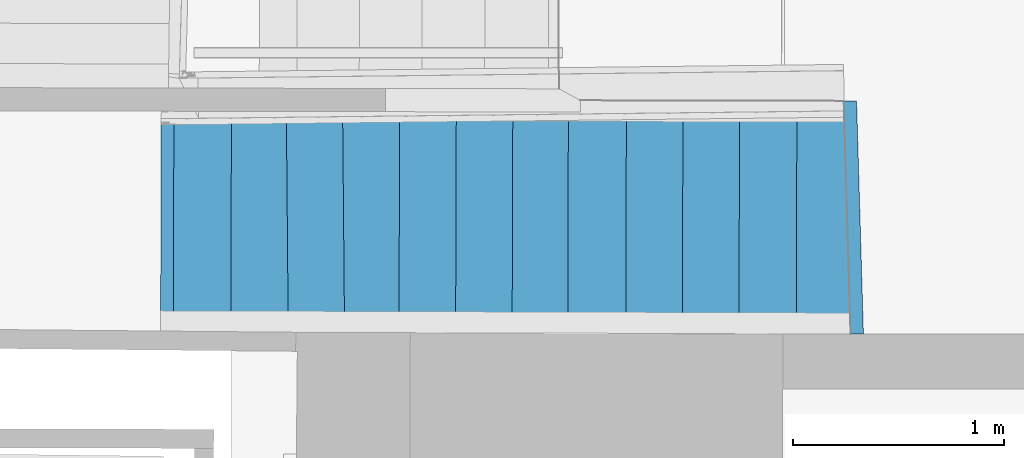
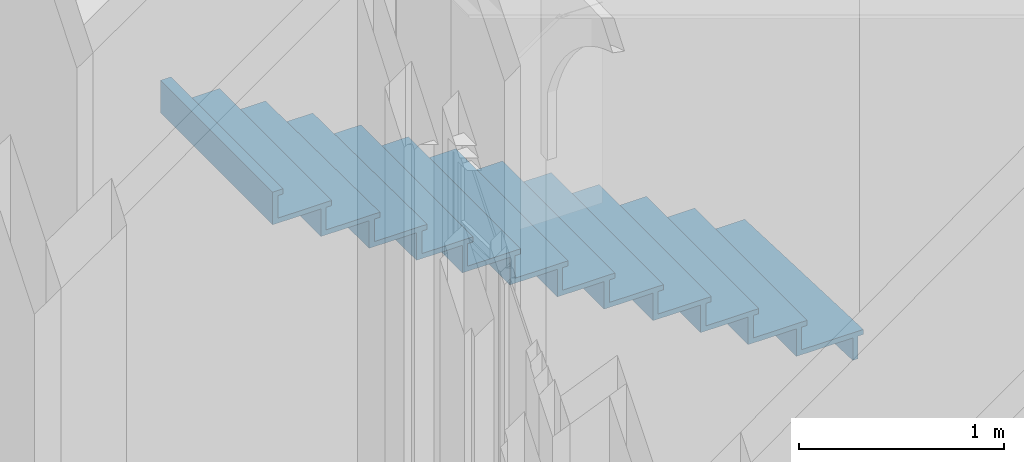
# One storey, part 73 of 97: 1 stair flight, 1 element without a shape of its own.
"""IFC2X3 building model written with IfcOpenShell, lengths in centimetres."""

from ifc_helpers import new_model, entity, si_unit, converted_unit, direction, frame, origin, origin_with_axes, place, context, subcontext, project, spatial, faceted_brep, material, material_list, element, aggregate, save


model = new_model("IFC2X3")

# Units and contexts
model_context = context("Model", 3, precision=0.0001, world=origin(), true_north=direction((0.225632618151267, 0.974212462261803, 0.0)))
body_context = subcontext(model_context, "Body", "Model", "MODEL_VIEW")
ifc_project = project(units=[si_unit("LENGTHUNIT", "METRE", prefix="CENTI"), si_unit("AREAUNIT", "SQUARE_METRE", prefix="CENTI"), si_unit("VOLUMEUNIT", "CUBIC_METRE", prefix="CENTI"), converted_unit("PLANEANGLEUNIT", "DEGREE", entity("IfcRatioMeasure", 0.0174532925), si_unit("PLANEANGLEUNIT", "RADIAN"), dimensions=[0, 0, 0, 0, 0, 0, 0])], contexts=[model_context])

# Site, building, storey
site_placement = place(None, origin_with_axes())
site = spatial("IfcSite", under=ifc_project, at=site_placement, Name="Default Site", CompositionType="ELEMENT")
building_placement = place(site_placement, origin_with_axes())
building = spatial("IfcBuilding", under=site, at=building_placement, Name="Default Building", CompositionType="ELEMENT")
storey_placement = place(building_placement, origin_with_axes())
storey = spatial("IfcBuildingStorey", under=building, at=storey_placement, Name="Rez-de-chaussée", CompositionType="ELEMENT", Elevation=0.0)

# Stair, stair flight
stair_placement = place(storey_placement, frame((-869.486892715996, -231.842367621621, 0.0), z_axis=(0.0, 0.0, 1.0), x_axis=(1.0, 0.0, 0.0)))
stair = element("IfcStair", 1, at=stair_placement, inside=storey, Name="Escalier 12888", ShapeType="NOTDEFINED")
ifc_material_1 = material(Name="Noyer 01")
ifc_material_2 = material(Name="Épicéa")
ifc_material_list = material_list([ifc_material_1, ifc_material_2])
stair_flight_placement = place(stair_placement, frame((1.62228395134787, -55.1634621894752, 13.4757027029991), z_axis=(0.0, 0.0, 1.0), x_axis=(-0.999567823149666, -0.029396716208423, 0.0)))
stair_flight = element("IfcStairFlight", 2, at=stair_flight_placement, material=ifc_material_list, Name="4294967271", context=body_context, shape_type="Brep", body=[
    faceted_brep([(-3.00003006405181, 0.0, -13.4757027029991), (0.0, 0.0, -13.4757027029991), (-6.06921522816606e-05, -110.374621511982, -13.4757027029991), (-3.00009040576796, -110.374609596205, -13.4757027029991), (0.0, 0.0, 0.0), (-3.00003006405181, 0.0, 0.0), (-3.00009040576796, -110.374609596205, 0.0), (-6.06921522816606e-05, -110.374621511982, 0.0), (-3.00009058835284, -110.374609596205, -13.4757027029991), (-3.00002988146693, -1.00121049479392e-13, 0.0), (-3.00003006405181, -2.33910672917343e-09, -13.4757027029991), (-1.82378848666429e-18, 2.33910672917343e-09, 0.0), (3.76551813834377e-08, -2.07184575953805e-14, -13.4757027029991), (-6.0729807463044e-05, -110.374621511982, 0.0), (-6.06921522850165e-05, -110.374621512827, -13.4757027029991), (-3.00009040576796, -110.37460959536, 0.0)], [[[0, 1, 2]], [[2, 3, 0]], [[4, 5, 6]], [[6, 7, 4]], [[5, 0, 8]], [[3, 6, 9]], [[4, 1, 10]], [[0, 5, 11]], [[7, 2, 12]], [[1, 4, 13]], [[6, 3, 14]], [[2, 7, 15]]]),
    faceted_brep([(28.8092375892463, -0.936923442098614, 2.99999862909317), (31.8076403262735, -1.03443094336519, 2.99999862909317), (28.2228189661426, -111.265320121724, 2.99999862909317), (25.2244162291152, -111.167812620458, 2.99999862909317), (31.8076403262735, -1.03443094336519, 16.4756998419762), (28.8092375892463, -0.936923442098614, 16.4756998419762), (25.2244162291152, -111.167812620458, 16.4756998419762), (28.2228189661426, -111.265320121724, 16.4756998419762), (25.2244162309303, -111.167812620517, 2.99999862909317), (28.8092375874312, -0.936923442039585, 16.4756998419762), (28.8092375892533, -0.936923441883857, 2.99999862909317), (31.8076403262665, -1.03443094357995, 16.4756998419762), (31.8076403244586, -1.03443094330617, 2.99999862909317), (28.2228189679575, -111.265320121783, 16.4756998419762), (28.2228189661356, -111.265320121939, 2.99999862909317), (25.2244162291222, -111.167812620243, 16.4756998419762)], [[[0, 1, 2]], [[2, 3, 0]], [[4, 5, 6]], [[6, 7, 4]], [[5, 0, 8]], [[3, 6, 9]], [[4, 1, 10]], [[0, 5, 11]], [[7, 2, 12]], [[1, 4, 13]], [[6, 3, 14]], [[2, 7, 15]]]),
    faceted_brep([(55.9391720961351, -1.81921206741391, 19.4756999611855), (58.9375748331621, -1.91671956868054, 19.4756999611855), (55.353614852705, -112.121563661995, 19.4756999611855), (52.3552121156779, -112.024056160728, 19.4756999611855), (58.9375748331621, -1.91671956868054, 32.9514041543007), (55.9391720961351, -1.81921206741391, 32.9514041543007), (52.3552121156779, -112.024056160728, 32.9514041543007), (55.353614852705, -112.121563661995, 32.9514041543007), (52.3552121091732, -112.024056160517, 19.4756999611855), (55.9391721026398, -1.81921206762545, 32.9514041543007), (55.9391720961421, -1.8192120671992, 19.4756999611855), (58.9375748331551, -1.91671956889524, 32.9514041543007), (58.9375748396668, -1.91671956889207, 19.4756999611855), (55.3536148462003, -112.121563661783, 32.9514041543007), (55.353614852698, -112.12156366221, 19.4756999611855), (52.3552121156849, -112.024056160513, 32.9514041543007)], [[[0, 1, 2]], [[2, 3, 0]], [[4, 5, 6]], [[6, 7, 4]], [[5, 0, 8]], [[3, 6, 9]], [[4, 1, 10]], [[0, 5, 11]], [[7, 2, 12]], [[1, 4, 13]], [[6, 3, 14]], [[2, 7, 15]]]),
    faceted_brep([(82.729108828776, -2.69045205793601, 35.95140427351), (85.7275115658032, -2.78795955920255, 35.95140427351), (82.1444038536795, -112.967068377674, 35.95140427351), (79.1460011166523, -112.869560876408, 35.95140427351), (85.7275115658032, -2.78795955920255, 49.427105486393), (82.729108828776, -2.69045205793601, 49.427105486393), (79.1460011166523, -112.869560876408, 49.427105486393), (82.1444038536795, -112.967068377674, 49.427105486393), (79.1460011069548, -112.869560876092, 35.95140427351), (82.7291088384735, -2.69045205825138, 49.427105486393), (82.729108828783, -2.69045205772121, 35.95140427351), (85.7275115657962, -2.78795955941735, 49.427105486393), (85.7275115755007, -2.78795955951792, 35.95140427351), (82.144403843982, -112.967068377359, 49.427105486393), (82.1444038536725, -112.967068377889, 35.95140427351), (79.1460011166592, -112.869560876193, 49.427105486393)], [[[0, 1, 2]], [[2, 3, 0]], [[4, 5, 6]], [[6, 7, 4]], [[5, 0, 8]], [[3, 6, 9]], [[4, 1, 10]], [[0, 5, 11]], [[7, 2, 12]], [[1, 4, 13]], [[6, 3, 14]], [[2, 7, 15]]]),
    faceted_brep([(109.51132483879, -3.56144113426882, 52.42710262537), (112.509727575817, -3.6589486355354, 52.42710262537), (108.92747178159, -113.812334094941, 52.42710262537), (105.929069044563, -113.714826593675, 52.42710262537), (112.509727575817, -3.6589486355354, 65.9028068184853), (109.51132483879, -3.56144113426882, 65.9028068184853), (105.929069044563, -113.714826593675, 65.9028068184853), (108.92747178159, -113.812334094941, 65.9028068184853), (105.929069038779, -113.714826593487, 52.42710262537), (109.511324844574, -3.56144113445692, 65.9028068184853), (109.511324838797, -3.56144113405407, 52.42710262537), (112.50972757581, -3.65894863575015, 65.9028068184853), (112.509727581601, -3.6589486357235, 52.42710262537), (108.927471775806, -113.812334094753, 65.9028068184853), (108.927471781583, -113.812334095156, 52.42710262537), (105.92906904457, -113.71482659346, 65.9028068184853)], [[[0, 1, 2]], [[2, 3, 0]], [[4, 5, 6]], [[6, 7, 4]], [[5, 0, 8]], [[3, 6, 9]], [[4, 1, 10]], [[0, 5, 11]], [[7, 2, 12]], [[1, 4, 13]], [[6, 3, 14]], [[2, 7, 15]]]),
    faceted_brep([(136.969056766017, -4.45437188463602, 68.9028099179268), (139.967554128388, -4.55190602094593, 68.9028099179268), (136.386073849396, -114.678921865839, 68.9028099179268), (133.387671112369, -114.581414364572, 68.9028099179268), (139.967554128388, -4.55190602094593, 82.3785081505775), (136.969056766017, -4.45437188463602, 82.3785081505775), (133.387671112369, -114.581414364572, 82.3785081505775), (136.386073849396, -114.678921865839, 82.3785081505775), (133.387671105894, -114.581414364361, 68.9028099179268), (136.969056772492, -4.45437188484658, 82.3785081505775), (136.969056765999, -4.45437188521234, 68.9028099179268), (139.967554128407, -4.55190602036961, 82.3785081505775), (139.967554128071, -4.55190602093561, 68.9028099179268), (136.386073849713, -114.678921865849, 82.3785081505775), (136.386073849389, -114.678921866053, 68.9028099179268), (133.387671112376, -114.581414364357, 82.3785081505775)], [[[0, 1, 2]], [[2, 3, 0]], [[4, 5, 6]], [[6, 7, 4]], [[5, 0, 8]], [[3, 6, 9]], [[4, 1, 10]], [[0, 5, 11]], [[7, 2, 12]], [[1, 4, 13]], [[6, 3, 14]], [[2, 7, 15]]]),
    faceted_brep([(163.270300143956, -5.30973699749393, 85.3785112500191), (166.268798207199, -5.40724730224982, 85.3785112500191), (162.688156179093, -115.50900450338, 85.3785112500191), (159.689753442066, -115.411497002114, 85.3785112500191), (166.268798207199, -5.40724730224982, 98.8542094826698), (163.270300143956, -5.30973699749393, 98.8542094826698), (159.689753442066, -115.411497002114, 98.8542094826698), (162.688156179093, -115.50900450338, 98.8542094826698), (159.689753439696, -115.411497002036, 85.3785112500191), (163.270300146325, -5.30973699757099, 98.8542094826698), (163.270300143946, -5.30973699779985, 85.3785112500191), (166.268798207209, -5.4072473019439, 98.8542094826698), (166.268798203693, -5.40724730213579, 85.3785112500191), (162.688156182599, -115.509004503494, 98.8542094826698), (162.688156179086, -115.509004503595, 85.3785112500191), (159.689753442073, -115.411497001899, 98.8542094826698)], [[[0, 1, 2]], [[2, 3, 0]], [[4, 5, 6]], [[6, 7, 4]], [[5, 0, 8]], [[3, 6, 9]], [[4, 1, 10]], [[0, 5, 11]], [[7, 2, 12]], [[1, 4, 13]], [[6, 3, 14]], [[2, 7, 15]]]),
    faceted_brep([(190.016105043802, -6.17953598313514, 101.854206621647), (193.014507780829, -6.27704348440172, 101.854206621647), (189.434716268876, -116.353124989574, 101.854206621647), (186.436313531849, -116.255617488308, 101.854206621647), (193.014507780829, -6.27704348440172, 115.329910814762), (190.016105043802, -6.17953598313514, 115.329910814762), (186.436313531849, -116.255617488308, 115.329910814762), (189.434716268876, -116.353124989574, 115.329910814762), (186.436313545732, -116.255617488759, 101.854206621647), (190.016105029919, -6.17953598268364, 115.329910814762), (190.016105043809, -6.17953598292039, 101.854206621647), (193.014507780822, -6.27704348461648, 115.329910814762), (193.014507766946, -6.27704348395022, 101.854206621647), (189.43471628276, -116.353124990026, 115.329910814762), (189.434716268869, -116.353124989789, 101.854206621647), (186.436313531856, -116.255617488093, 115.329910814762)], [[[0, 1, 2]], [[2, 3, 0]], [[4, 5, 6]], [[6, 7, 4]], [[5, 0, 8]], [[3, 6, 9]], [[4, 1, 10]], [[0, 5, 11]], [[7, 2, 12]], [[1, 4, 13]], [[6, 3, 14]], [[2, 7, 15]]]),
    faceted_brep([(216.829966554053, -7.05155114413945, 118.329907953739), (219.82836929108, -7.14905864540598, 118.329907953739), (216.249430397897, -117.199392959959, 118.329907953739), (213.25093268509, -117.101870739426, 118.329907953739), (219.82836929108, -7.14905864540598, 131.805612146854), (216.829966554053, -7.05155114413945, 131.805612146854), (213.25093268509, -117.101870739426, 131.805612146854), (216.249430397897, -117.199392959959, 131.805612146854), (213.250932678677, -117.101870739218, 118.329907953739), (216.829966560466, -7.05155114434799, 131.805612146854), (216.82996655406, -7.05155114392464, 118.329907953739), (219.828369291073, -7.14905864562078, 131.805612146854), (219.82836928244, -7.14905864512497, 118.329907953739), (216.249430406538, -117.19939296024, 131.805612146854), (216.249430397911, -117.199392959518, 118.329907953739), (213.250932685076, -117.101870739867, 131.805612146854)], [[[0, 1, 2]], [[2, 3, 0]], [[4, 5, 6]], [[6, 7, 4]], [[5, 0, 8]], [[3, 6, 9]], [[4, 1, 10]], [[0, 5, 11]], [[7, 2, 12]], [[1, 4, 13]], [[6, 3, 14]], [[2, 7, 15]]]),
    faceted_brep([(242.564820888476, -7.92460619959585, 134.80562120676), (245.564190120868, -7.98600609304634, 134.80562120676), (243.310642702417, -118.053435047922, 134.80562120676), (240.311273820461, -117.992023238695, 134.80562120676), (245.564190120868, -7.98600609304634, 148.281313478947), (242.564820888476, -7.92460619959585, 148.281313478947), (240.311273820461, -117.992023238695, 148.281313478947), (243.310642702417, -118.053435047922, 148.281313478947), (240.311273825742, -117.992023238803, 134.80562120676), (242.564820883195, -7.92460619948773, 148.281313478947), (242.564820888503, -7.92460619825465, 134.80562120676), (245.564190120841, -7.98600609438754, 148.281313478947), (245.564190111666, -7.98600609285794, 134.80562120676), (243.310642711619, -118.053435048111, 148.281313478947), (243.310642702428, -118.053435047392, 134.80562120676), (240.31127382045, -117.992023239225, 148.281313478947)], [[[0, 1, 2]], [[2, 3, 0]], [[4, 5, 6]], [[6, 7, 4]], [[5, 0, 8]], [[3, 6, 9]], [[4, 1, 10]], [[0, 5, 11]], [[7, 2, 12]], [[1, 4, 13]], [[6, 3, 14]], [[2, 7, 15]]]),
    faceted_brep([(269.211791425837, -8.79085451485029, 151.281322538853), (272.211150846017, -8.85258805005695, 151.281322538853), (269.945583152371, -118.894022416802, 151.281322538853), (266.946224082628, -118.832276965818, 151.281322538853), (272.211150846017, -8.85258805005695, 164.757014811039), (269.211791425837, -8.79085451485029, 164.757014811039), (266.946224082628, -118.832276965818, 164.757014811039), (269.945583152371, -118.894022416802, 164.757014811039), (266.946224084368, -118.832276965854, 151.281322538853), (269.211791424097, -8.79085451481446, 164.757014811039), (269.211791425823, -8.79085451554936, 151.281322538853), (272.211150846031, -8.85258804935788, 164.757014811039), (272.211150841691, -8.85258804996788, 151.281322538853), (269.945583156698, -118.894022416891, 164.757014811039), (269.945583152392, -118.894022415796, 151.281322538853), (266.946224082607, -118.832276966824, 164.757014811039)], [[[0, 1, 2]], [[2, 3, 0]], [[4, 5, 6]], [[6, 7, 4]], [[5, 0, 8]], [[3, 6, 9]], [[4, 1, 10]], [[0, 5, 11]], [[7, 2, 12]], [[1, 4, 13]], [[6, 3, 14]], [[2, 7, 15]]]),
    faceted_brep([(296.433806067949, -9.64033528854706, 167.757023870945), (299.432208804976, -9.7378427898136, 167.757023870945), (295.855803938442, -119.711745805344, 167.757023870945), (292.857401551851, -119.6142263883, 167.757023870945), (299.432208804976, -9.7378427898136, 181.232716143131), (296.433806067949, -9.64033528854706, 181.232716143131), (292.857401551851, -119.6142263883, 181.232716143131), (295.855803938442, -119.711745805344, 181.232716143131), (292.857401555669, -119.614226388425, 167.757023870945), (296.433806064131, -9.6403352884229, 181.232716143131), (296.433806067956, -9.64033528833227, 167.757023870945), (299.432208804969, -9.7378427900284, 181.232716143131), (299.432208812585, -9.73784279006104, 167.757023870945), (295.855803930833, -119.711745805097, 181.232716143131), (295.855803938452, -119.711745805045, 167.757023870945), (292.857401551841, -119.6142263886, 181.232716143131)], [[[0, 1, 2]], [[2, 3, 0]], [[4, 5, 6]], [[6, 7, 4]], [[5, 0, 8]], [[3, 6, 9]], [[4, 1, 10]], [[0, 5, 11]], [[7, 2, 12]], [[1, 4, 13]], [[6, 3, 14]], [[2, 7, 15]]]),
    faceted_brep([(323.654959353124, -10.5255928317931, 184.232725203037), (326.653362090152, -10.6231003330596, 184.232725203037), (323.077726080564, -120.57086013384, 184.232725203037), (320.079323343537, -120.473352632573, 184.232725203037), (326.653362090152, -10.6231003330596, 197.708417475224), (323.654959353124, -10.5255928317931, 197.708417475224), (320.079323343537, -120.473352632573, 197.708417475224), (323.077726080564, -120.57086013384, 197.708417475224), (320.079323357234, -120.473352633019, 184.232725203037), (323.654959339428, -10.5255928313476, 197.708417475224), (323.654959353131, -10.5255928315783, 184.232725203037), (326.653362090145, -10.6231003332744, 197.708417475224), (326.653362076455, -10.6231003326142, 184.232725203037), (323.077726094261, -120.570860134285, 197.708417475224), (323.077726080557, -120.570860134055, 184.232725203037), (320.079323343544, -120.473352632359, 197.708417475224)], [[[0, 1, 2]], [[2, 3, 0]], [[4, 5, 6]], [[6, 7, 4]], [[5, 0, 8]], [[3, 6, 9]], [[4, 1, 10]], [[0, 5, 11]], [[7, 2, 12]], [[1, 4, 13]], [[6, 3, 14]], [[2, 7, 15]]]),
    faceted_brep([(-6.00008551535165, -110.185260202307, 2.99999862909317), (28.2228189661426, -111.265320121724, 2.99999862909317), (31.8076403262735, -1.03443094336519, 2.99999862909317), (-6.00004656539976, 0.195110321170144, 2.99999862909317), (31.8076403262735, -1.03443094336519, 0.0), (28.2228189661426, -111.265320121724, 0.0), (-6.00008551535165, -110.185260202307, 0.0), (-6.00004656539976, 0.195110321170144, 0.0), (-6.00004655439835, 0.19511032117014, 2.99999862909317), (-6.00008552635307, -110.185260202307, 0.0), (-6.00008551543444, -110.18526020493, 2.99999862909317), (28.2228189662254, -111.265320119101, 0.0), (28.2228189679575, -111.265320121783, 2.99999862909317), (31.8076403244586, -1.03443094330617, 0.0), (31.8076403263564, -1.03443094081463, 2.99999862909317), (-6.00004656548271, 0.195110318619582, 0.0)], [[[0, 1, 2]], [[2, 3, 0]], [[4, 5, 6]], [[6, 7, 4]], [[6, 0, 8]], [[3, 7, 9]], [[5, 1, 10]], [[0, 6, 11]], [[4, 2, 12]], [[1, 5, 13]], [[7, 3, 14]], [[2, 4, 15]]]),
    faceted_brep([(25.8108355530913, -0.839392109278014, 19.4756999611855), (22.2260134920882, -111.070305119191, 19.4756999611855), (55.353614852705, -112.121563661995, 19.4756999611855), (58.9375748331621, -1.91671956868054, 19.4756999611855), (55.353614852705, -112.121563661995, 16.4756998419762), (22.2260134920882, -111.070305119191, 16.4756998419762), (25.8108355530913, -0.839392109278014, 16.4756998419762), (58.9375748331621, -1.91671956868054, 16.4756998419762), (25.8108355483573, -0.839392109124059, 19.4756999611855), (22.2260134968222, -111.070305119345, 16.4756998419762), (22.2260134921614, -111.070305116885, 19.4756999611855), (55.3536148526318, -112.121563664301, 16.4756998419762), (55.3536148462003, -112.121563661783, 19.4756999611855), (58.9375748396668, -1.91671956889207, 16.4756998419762), (58.9375748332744, -1.91671956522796, 19.4756999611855), (25.810835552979, -0.839392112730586, 16.4756998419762)], [[[0, 1, 2]], [[2, 3, 0]], [[4, 5, 6]], [[6, 7, 4]], [[5, 1, 8]], [[0, 6, 9]], [[4, 2, 10]], [[1, 5, 11]], [[7, 3, 12]], [[2, 4, 13]], [[6, 0, 14]], [[3, 7, 15]]]),
    faceted_brep([(52.9407693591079, -1.72170456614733, 35.95140427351), (49.3568097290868, -111.926536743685, 35.95140427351), (82.1444038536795, -112.967068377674, 35.95140427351), (85.7275115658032, -2.78795955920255, 35.95140427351), (82.1444038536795, -112.967068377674, 32.9514041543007), (49.3568097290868, -111.926536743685, 32.9514041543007), (52.9407693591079, -1.72170456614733, 32.9514041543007), (85.7275115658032, -2.78795955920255, 32.9514041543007), (52.9407693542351, -1.72170456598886, 35.95140427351), (49.3568097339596, -111.926536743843, 32.9514041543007), (49.356809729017, -111.926536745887, 35.95140427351), (82.1444038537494, -112.967068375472, 32.9514041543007), (82.144403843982, -112.967068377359, 35.95140427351), (85.7275115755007, -2.78795955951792, 32.9514041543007), (85.7275115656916, -2.78795956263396, 35.95140427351), (52.9407693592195, -1.72170456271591, 32.9514041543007)], [[[0, 1, 2]], [[2, 3, 0]], [[4, 5, 6]], [[6, 7, 4]], [[5, 1, 8]], [[0, 6, 9]], [[4, 2, 10]], [[1, 5, 11]], [[7, 3, 12]], [[2, 4, 13]], [[6, 0, 14]], [[3, 7, 15]]]),
    faceted_brep([(79.730706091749, -2.59294455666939, 52.42710262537), (76.1475983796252, -112.772053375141, 52.42710262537), (108.92747178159, -113.812334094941, 52.42710262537), (112.509727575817, -3.6589486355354, 52.42710262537), (108.92747178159, -113.812334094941, 49.427105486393), (76.1475983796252, -112.772053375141, 49.427105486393), (79.730706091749, -2.59294455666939, 49.427105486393), (112.509727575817, -3.6589486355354, 49.427105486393), (79.7307061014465, -2.59294455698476, 52.42710262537), (76.1475983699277, -112.772053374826, 49.427105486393), (76.14759837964, -112.772053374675, 52.42710262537), (108.927471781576, -113.812334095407, 49.427105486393), (108.927471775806, -113.812334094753, 52.42710262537), (112.509727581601, -3.6589486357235, 49.427105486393), (112.509727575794, -3.65894863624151, 52.42710262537), (79.7307060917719, -2.59294455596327, 49.427105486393)], [[[0, 1, 2]], [[2, 3, 0]], [[4, 5, 6]], [[6, 7, 4]], [[5, 1, 8]], [[0, 6, 9]], [[4, 2, 10]], [[1, 5, 11]], [[7, 3, 12]], [[2, 4, 13]], [[6, 0, 14]], [[3, 7, 15]]]),
    faceted_brep([(106.512922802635, -3.46390980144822, 68.9028099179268), (102.93057098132, -113.617316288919, 68.9028099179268), (136.386073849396, -114.678921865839, 68.9028099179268), (139.967554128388, -4.55190602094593, 68.9028099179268), (136.386073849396, -114.678921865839, 65.9028068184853), (102.93057098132, -113.617316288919, 65.9028068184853), (106.512922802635, -3.46390980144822, 65.9028068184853), (139.967554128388, -4.55190602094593, 65.9028068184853), (106.512922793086, -3.46390980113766, 68.9028099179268), (102.930570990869, -113.617316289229, 65.9028068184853), (102.930570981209, -113.61731629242, 68.9028099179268), (136.386073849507, -114.678921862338, 65.9028068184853), (136.386073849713, -114.678921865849, 68.9028099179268), (139.967554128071, -4.55190602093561, 65.9028068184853), (139.96755412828, -4.55190602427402, 68.9028099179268), (106.512922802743, -3.46390979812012, 65.9028068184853)], [[[0, 1, 2]], [[2, 3, 0]], [[4, 5, 6]], [[6, 7, 4]], [[5, 1, 8]], [[0, 6, 9]], [[4, 2, 10]], [[1, 5, 11]], [[7, 3, 12]], [[2, 4, 13]], [[6, 0, 14]], [[3, 7, 15]]]),
    faceted_brep([(133.97065402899, -4.3568643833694, 85.3785112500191), (130.389268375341, -114.483906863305, 85.3785112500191), (162.688156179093, -115.50900450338, 85.3785112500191), (166.268798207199, -5.40724730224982, 85.3785112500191), (162.688156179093, -115.50900450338, 82.3785081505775), (130.389268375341, -114.483906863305, 82.3785081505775), (133.97065402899, -4.3568643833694, 82.3785081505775), (166.268798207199, -5.40724730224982, 82.3785081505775), (133.970654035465, -4.35686438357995, 85.3785112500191), (130.389268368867, -114.483906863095, 82.3785081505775), (130.389268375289, -114.483906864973, 85.3785112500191), (162.688156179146, -115.509004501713, 82.3785081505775), (162.688156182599, -115.509004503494, 85.3785112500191), (166.268798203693, -5.40724730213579, 82.3785081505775), (166.268798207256, -5.40724730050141, 85.3785112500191), (133.970654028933, -4.3568643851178, 82.3785081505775)], [[[0, 1, 2]], [[2, 3, 0]], [[4, 5, 6]], [[6, 7, 4]], [[5, 1, 8]], [[0, 6, 9]], [[4, 2, 10]], [[1, 5, 11]], [[7, 3, 12]], [[2, 4, 13]], [[6, 0, 14]], [[3, 7, 15]]]),
    faceted_brep([(160.271898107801, -5.21220566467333, 101.854206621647), (156.691350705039, -115.313989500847, 101.854206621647), (189.434716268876, -116.353124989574, 101.854206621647), (193.014507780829, -6.27704348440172, 101.854206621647), (189.434716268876, -116.353124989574, 98.8542094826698), (156.691350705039, -115.313989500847, 98.8542094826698), (160.271898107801, -5.21220566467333, 98.8542094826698), (193.014507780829, -6.27704348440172, 98.8542094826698), (160.271898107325, -5.21220566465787, 101.854206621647), (156.691350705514, -115.313989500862, 98.8542094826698), (156.691350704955, -115.313989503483, 101.854206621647), (189.43471626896, -116.353124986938, 98.8542094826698), (189.43471628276, -116.353124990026, 101.854206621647), (193.014507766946, -6.27704348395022, 98.8542094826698), (193.014507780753, -6.27704348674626, 101.854206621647), (160.271898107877, -5.2122056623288, 98.8542094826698)], [[[0, 1, 2]], [[2, 3, 0]], [[4, 5, 6]], [[6, 7, 4]], [[5, 1, 8]], [[0, 6, 9]], [[4, 2, 10]], [[1, 5, 11]], [[7, 3, 12]], [[2, 4, 13]], [[6, 0, 14]], [[3, 7, 15]]]),
    faceted_brep([(187.017703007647, -6.08200465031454, 118.329907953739), (183.437911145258, -116.158098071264, 118.329907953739), (216.249430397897, -117.199392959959, 118.329907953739), (219.82836929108, -7.14905864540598, 118.329907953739), (216.249430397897, -117.199392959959, 115.329910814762), (183.437911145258, -116.158098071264, 115.329910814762), (187.017703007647, -6.08200465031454, 115.329910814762), (219.82836929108, -7.14905864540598, 115.329910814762), (187.017703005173, -6.08200465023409, 118.329907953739), (183.437911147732, -116.158098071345, 115.329910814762), (183.437911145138, -116.15809807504, 118.329907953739), (216.249430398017, -117.199392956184, 115.329910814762), (216.249430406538, -117.19939296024, 118.329907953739), (219.82836928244, -7.14905864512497, 115.329910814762), (219.828369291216, -7.1490586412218, 118.329907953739), (187.017703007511, -6.08200465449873, 115.329910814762)], [[[0, 1, 2]], [[2, 3, 0]], [[4, 5, 6]], [[6, 7, 4]], [[5, 1, 8]], [[0, 6, 9]], [[4, 2, 10]], [[1, 5, 11]], [[7, 3, 12]], [[2, 4, 13]], [[6, 0, 14]], [[3, 7, 15]]]),
    faceted_brep([(210.252529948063, -117.004363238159, 134.80562120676), (243.310642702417, -118.053435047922, 134.80562120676), (245.564190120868, -7.98600609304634, 134.80562120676), (213.831469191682, -6.95401700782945, 134.80562120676), (245.564190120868, -7.98600609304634, 131.805612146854), (243.310642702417, -118.053435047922, 131.805612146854), (210.252529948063, -117.004363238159, 131.805612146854), (213.831469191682, -6.95401700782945, 131.805612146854), (213.831469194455, -6.95401700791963, 134.80562120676), (210.25252994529, -117.004363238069, 131.805612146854), (210.252529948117, -117.004363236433, 134.80562120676), (243.310642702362, -118.053435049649, 131.805612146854), (243.310642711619, -118.053435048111, 134.80562120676), (245.564190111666, -7.98600609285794, 131.805612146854), (245.564190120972, -7.98600608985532, 134.80562120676), (213.831469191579, -6.95401701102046, 131.805612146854)], [[[0, 1, 2]], [[2, 3, 0]], [[4, 5, 6]], [[6, 7, 4]], [[6, 0, 8]], [[3, 7, 9]], [[5, 1, 10]], [[0, 6, 11]], [[4, 2, 12]], [[1, 5, 13]], [[7, 3, 14]], [[2, 4, 15]]]),
    faceted_brep([(237.313287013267, -117.864152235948, 151.281322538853), (269.945583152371, -118.894022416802, 151.281322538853), (272.211150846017, -8.85258805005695, 151.281322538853), (239.56700334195, -7.79097987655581, 151.281322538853), (272.211150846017, -8.85258805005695, 148.281313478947), (269.945583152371, -118.894022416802, 148.281313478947), (237.313287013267, -117.864152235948, 148.281313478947), (239.56700334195, -7.79097987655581, 148.281313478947), (239.567003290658, -7.79097987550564, 151.281322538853), (237.313287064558, -117.864152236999, 148.281313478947), (237.313287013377, -117.864152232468, 151.281322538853), (269.945583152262, -118.894022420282, 148.281313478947), (269.945583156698, -118.894022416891, 151.281322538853), (272.211150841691, -8.85258804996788, 148.281313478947), (272.211150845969, -8.85258805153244, 151.281322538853), (239.567003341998, -7.79097987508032, 148.281313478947)], [[[0, 1, 2]], [[2, 3, 0]], [[4, 5, 6]], [[6, 7, 4]], [[6, 0, 8]], [[3, 7, 9]], [[5, 1, 10]], [[0, 6, 11]], [[4, 2, 12]], [[1, 5, 13]], [[7, 3, 14]], [[2, 4, 15]]]),
    faceted_brep([(263.948131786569, -118.704748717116, 167.757023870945), (295.855803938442, -119.711745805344, 167.757023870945), (299.432208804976, -9.7378427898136, 167.757023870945), (266.213868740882, -8.65755903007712, 167.757023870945), (299.432208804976, -9.7378427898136, 164.757014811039), (295.855803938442, -119.711745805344, 164.757014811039), (263.948131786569, -118.704748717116, 164.757014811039), (266.213868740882, -8.65755903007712, 164.757014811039), (266.213868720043, -8.65755902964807, 167.757023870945), (263.948131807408, -118.704748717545, 164.757014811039), (263.948131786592, -118.704748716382, 167.757023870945), (295.855803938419, -119.711745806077, 164.757014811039), (295.855803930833, -119.711745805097, 167.757023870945), (299.432208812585, -9.73784279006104, 164.757014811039), (299.432208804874, -9.73784279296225, 167.757023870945), (266.213868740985, -8.65755902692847, 164.757014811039)], [[[0, 1, 2]], [[2, 3, 0]], [[4, 5, 6]], [[6, 7, 4]], [[6, 0, 8]], [[3, 7, 9]], [[5, 1, 10]], [[0, 6, 11]], [[4, 2, 12]], [[1, 5, 13]], [[7, 3, 14]], [[2, 4, 15]]]),
    faceted_brep([(293.435403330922, -9.54282778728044, 184.232725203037), (289.858998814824, -119.516718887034, 184.232725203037), (323.077726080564, -120.57086013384, 184.232725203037), (326.653362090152, -10.6231003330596, 184.232725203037), (323.077726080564, -120.57086013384, 181.232716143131), (289.858998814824, -119.516718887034, 181.232716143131), (293.435403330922, -9.54282778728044, 181.232716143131), (326.653362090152, -10.6231003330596, 181.232716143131), (293.435403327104, -9.54282778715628, 184.232725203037), (289.858998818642, -119.516718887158, 181.232716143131), (289.858998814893, -119.516718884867, 184.232725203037), (323.077726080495, -120.570860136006, 181.232716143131), (323.077726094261, -120.570860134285, 184.232725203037), (326.653362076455, -10.6231003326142, 181.232716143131), (326.653362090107, -10.6231003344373, 184.232725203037), (293.435403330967, -9.54282778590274, 181.232716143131)], [[[0, 1, 2]], [[2, 3, 0]], [[4, 5, 6]], [[6, 7, 4]], [[5, 1, 8]], [[0, 6, 9]], [[4, 2, 10]], [[1, 5, 11]], [[7, 3, 12]], [[2, 4, 13]], [[6, 0, 14]], [[3, 7, 15]]]),
    faceted_brep([(317.080920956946, -120.37583321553, 200.708414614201), (323.077726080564, -120.57086013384, 200.708414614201), (326.653362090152, -10.6231003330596, 200.708414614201), (320.656556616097, -10.4280853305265, 200.708414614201), (323.077726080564, -120.57086013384, 197.708417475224), (317.080920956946, -120.37583321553, 197.708417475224), (320.656556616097, -10.4280853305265, 197.708417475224), (326.653362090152, -10.6231003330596, 197.708417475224), (320.656556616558, -10.4280853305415, 200.708414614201), (317.080920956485, -120.375833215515, 197.708417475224), (317.080920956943, -120.375833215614, 200.708414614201), (323.077726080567, -120.570860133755, 197.708417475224), (323.077726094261, -120.570860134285, 200.708414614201), (326.653362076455, -10.6231003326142, 197.708417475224), (326.653362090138, -10.6231003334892, 200.708414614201), (320.656556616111, -10.428085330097, 197.708417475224)], [[[0, 1, 2]], [[2, 3, 0]], [[4, 5, 6]], [[6, 7, 4]], [[5, 0, 8]], [[3, 6, 9]], [[4, 1, 10]], [[0, 5, 11]], [[7, 2, 12]], [[1, 4, 13]], [[6, 3, 14]], [[2, 7, 15]]]),
])
aggregate(stair, [stair_flight])

save(model, "model.ifc")
